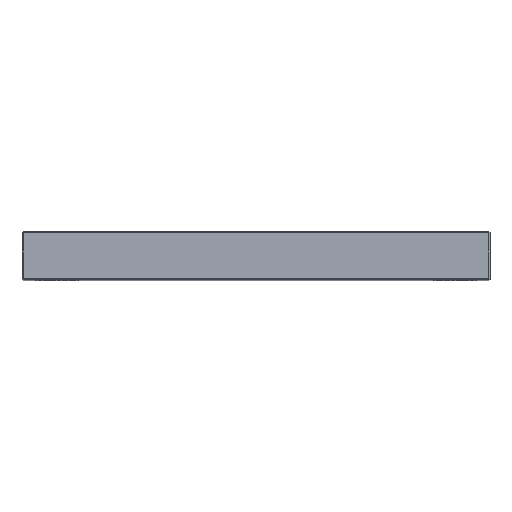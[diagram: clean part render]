
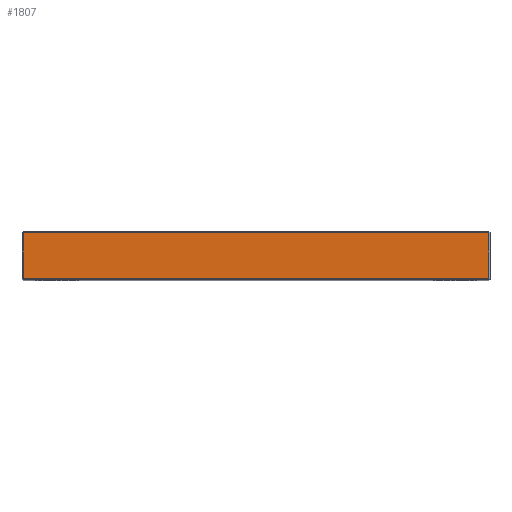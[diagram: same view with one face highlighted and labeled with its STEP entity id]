
A CAD part, top view. The second image highlights one B-rep face of the part: STEP entity #1807.
In plain terms, the highlighted planar face has unit normal (0, 0, 1).
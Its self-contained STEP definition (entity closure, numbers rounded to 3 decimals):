
#2 = VECTOR ( 'NONE', #1287, 1000. ) ;
#296 = DIRECTION ( 'NONE',  ( 0., -1., 0. ) ) ;
#373 = CARTESIAN_POINT ( 'NONE',  ( -173., 35., 173. ) ) ;
#435 = VERTEX_POINT ( 'NONE', #946 ) ;
#558 = VERTEX_POINT ( 'NONE', #1315 ) ;
#577 = VERTEX_POINT ( 'NONE', #1371 ) ;
#589 = AXIS2_PLACEMENT_3D ( 'NONE', #1665, #1424, #704 ) ;
#667 = VECTOR ( 'NONE', #2032, 1000. ) ;
#704 = DIRECTION ( 'NONE',  ( -1., 0., 0. ) ) ;
#804 = VERTEX_POINT ( 'NONE', #1973 ) ;
#841 = DIRECTION ( 'NONE',  ( 0., 1., 0. ) ) ;
#946 = CARTESIAN_POINT ( 'NONE',  ( 172., 35., 173. ) ) ;
#956 = ORIENTED_EDGE ( 'NONE', *, *, #2155, .T. ) ;
#1010 = VECTOR ( 'NONE', #296, 1000. ) ;
#1157 = LINE ( 'NONE', #1909, #667 ) ;
#1278 = CARTESIAN_POINT ( 'NONE',  ( -172., 36., 173. ) ) ;
#1287 = DIRECTION ( 'NONE',  ( -1., 0., 0. ) ) ;
#1315 = CARTESIAN_POINT ( 'NONE',  ( -172., 35., 173. ) ) ;
#1324 = FACE_OUTER_BOUND ( 'NONE', #2238, .T. ) ;
#1334 = CARTESIAN_POINT ( 'NONE',  ( 172., 36., 173. ) ) ;
#1371 = CARTESIAN_POINT ( 'NONE',  ( 172., 1., 173. ) ) ;
#1424 = DIRECTION ( 'NONE',  ( 0., 0., -1. ) ) ;
#1431 = ORIENTED_EDGE ( 'NONE', *, *, #1476, .T. ) ;
#1476 = EDGE_CURVE ( 'NONE', #804, #577, #1157, .T. ) ;
#1527 = LINE ( 'NONE', #1278, #1010 ) ;
#1642 = PLANE ( 'NONE',  #589 ) ;
#1665 = CARTESIAN_POINT ( 'NONE',  ( 173., 36., 173. ) ) ;
#1807 = ADVANCED_FACE ( 'NONE', ( #1324 ), #1642, .F. ) ;
#1836 = LINE ( 'NONE', #373, #2 ) ;
#1876 = VECTOR ( 'NONE', #841, 1000. ) ;
#1909 = CARTESIAN_POINT ( 'NONE',  ( 173., 1., 173. ) ) ;
#1973 = CARTESIAN_POINT ( 'NONE',  ( -172., 1., 173. ) ) ;
#2004 = ORIENTED_EDGE ( 'NONE', *, *, #2122, .T. ) ;
#2024 = LINE ( 'NONE', #1334, #1876 ) ;
#2032 = DIRECTION ( 'NONE',  ( 1., 0., 0. ) ) ;
#2114 = ORIENTED_EDGE ( 'NONE', *, *, #2167, .T. ) ;
#2122 = EDGE_CURVE ( 'NONE', #577, #435, #2024, .T. ) ;
#2155 = EDGE_CURVE ( 'NONE', #558, #804, #1527, .T. ) ;
#2167 = EDGE_CURVE ( 'NONE', #435, #558, #1836, .T. ) ;
#2238 = EDGE_LOOP ( 'NONE', ( #2114, #956, #1431, #2004 ) ) ;
